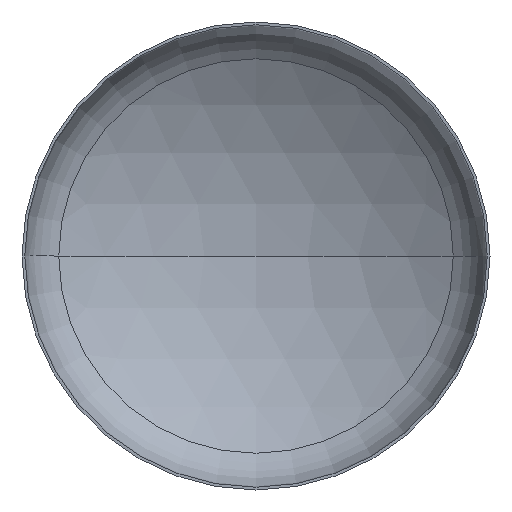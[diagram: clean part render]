
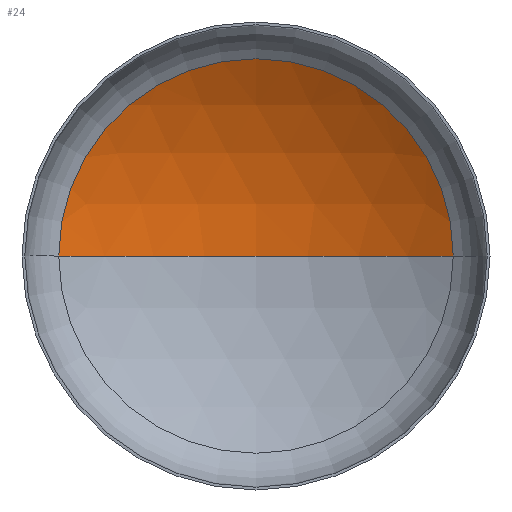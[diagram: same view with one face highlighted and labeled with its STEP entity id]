
A CAD part, front view. The second image highlights one B-rep face of the part: STEP entity #24.
In plain terms, the highlighted spherical face has radius 2400 mm.
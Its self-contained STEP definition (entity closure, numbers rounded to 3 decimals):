
#2 = ORIENTED_EDGE ( 'NONE', *, *, #200, .F. ) ;
#7 = CIRCLE ( 'NONE', #129, 2400. ) ;
#9 = EDGE_LOOP ( 'NONE', ( #2, #402, #81 ) ) ;
#19 = VERTEX_POINT ( 'NONE', #362 ) ;
#22 = CIRCLE ( 'NONE', #133, 2400. ) ;
#24 = ADVANCED_FACE ( 'NONE', ( #229 ), #140, .F. ) ;
#44 = VERTEX_POINT ( 'NONE', #245 ) ;
#50 = DIRECTION ( 'NONE',  ( 1., 0., 0. ) ) ;
#56 = DIRECTION ( 'NONE',  ( 0., -1., 0. ) ) ;
#81 = ORIENTED_EDGE ( 'NONE', *, *, #196, .T. ) ;
#86 = VERTEX_POINT ( 'NONE', #252 ) ;
#95 = DIRECTION ( 'NONE',  ( -1., 0., 0. ) ) ;
#112 = CIRCLE ( 'NONE', #134, 1264.33 ) ;
#129 = AXIS2_PLACEMENT_3D ( 'NONE', #203, #212, #215 ) ;
#133 = AXIS2_PLACEMENT_3D ( 'NONE', #344, #303, #95 ) ;
#134 = AXIS2_PLACEMENT_3D ( 'NONE', #233, #56, #50 ) ;
#140 = SPHERICAL_SURFACE ( 'NONE', #163, 2400. ) ;
#163 = AXIS2_PLACEMENT_3D ( 'NONE', #292, #363, #273 ) ;
#196 = EDGE_CURVE ( 'NONE', #86, #19, #112, .T. ) ;
#198 = EDGE_CURVE ( 'NONE', #44, #86, #22, .T. ) ;
#200 = EDGE_CURVE ( 'NONE', #44, #19, #7, .T. ) ;
#203 = CARTESIAN_POINT ( 'NONE',  ( 0., -1593.974, 0. ) ) ;
#212 = DIRECTION ( 'NONE',  ( 0., 0., 1. ) ) ;
#215 = DIRECTION ( 'NONE',  ( 1., 0., 0. ) ) ;
#229 = FACE_OUTER_BOUND ( 'NONE', #9, .T. ) ;
#233 = CARTESIAN_POINT ( 'NONE',  ( 0., 445.994, 0. ) ) ;
#245 = CARTESIAN_POINT ( 'NONE',  ( 0., 806.026, 0. ) ) ;
#252 = CARTESIAN_POINT ( 'NONE',  ( 1264.33, 445.994, 0. ) ) ;
#273 = DIRECTION ( 'NONE',  ( -1., 0., 0. ) ) ;
#292 = CARTESIAN_POINT ( 'NONE',  ( 0., -1593.974, 0. ) ) ;
#303 = DIRECTION ( 'NONE',  ( 0., 0., -1. ) ) ;
#344 = CARTESIAN_POINT ( 'NONE',  ( 0., -1593.974, 0. ) ) ;
#362 = CARTESIAN_POINT ( 'NONE',  ( -1264.33, 445.994, 0. ) ) ;
#363 = DIRECTION ( 'NONE',  ( 0., 0., -1. ) ) ;
#402 = ORIENTED_EDGE ( 'NONE', *, *, #198, .T. ) ;
